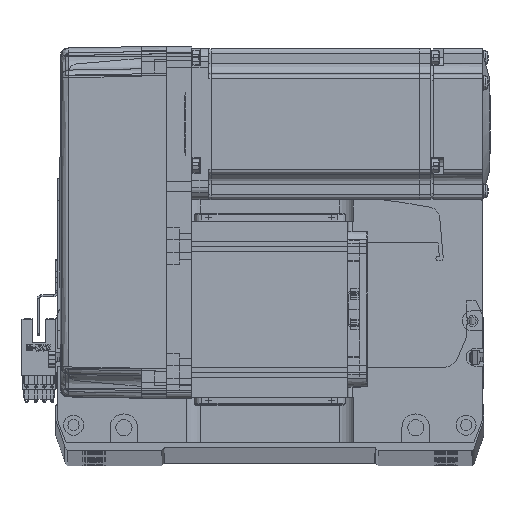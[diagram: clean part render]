
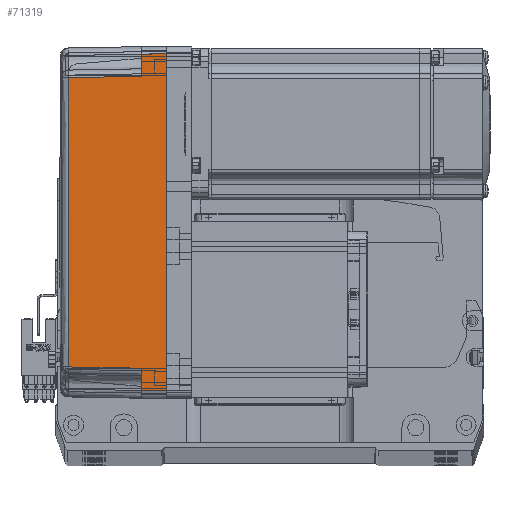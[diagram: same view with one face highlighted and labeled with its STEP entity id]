
A CAD part, top view. The second image highlights one B-rep face of the part: STEP entity #71319.
In plain terms, the highlighted planar face has unit normal (-0.018, 0, 1) as drawn and (0, 1, 0.017) by its records, which use the part's own axes.
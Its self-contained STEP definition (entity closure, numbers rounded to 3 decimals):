
#559 = CARTESIAN_POINT ( 'NONE',  ( 70., 35.825, 10. ) ) ;
#2320 = VERTEX_POINT ( 'NONE', #36102 ) ;
#3219 = CARTESIAN_POINT ( 'NONE',  ( -66.826, 35.825, 10. ) ) ;
#5297 = CARTESIAN_POINT ( 'NONE',  ( -67., 36., 0. ) ) ;
#5509 = DIRECTION ( 'NONE',  ( -0.017, -0.017, 1. ) ) ;
#7162 = CARTESIAN_POINT ( 'NONE',  ( 57.495, 35.32, 38.985 ) ) ;
#7268 = VECTOR ( 'NONE', #34863, 1000. ) ;
#8394 = DIRECTION ( 'NONE',  ( 1., 0., 0. ) ) ;
#9385 = CARTESIAN_POINT ( 'NONE',  ( 67., 36., 0. ) ) ;
#9484 = LINE ( 'NONE', #22014, #61740 ) ;
#11515 = EDGE_CURVE ( 'NONE', #2320, #17681, #45576, .T. ) ;
#12842 = FACE_OUTER_BOUND ( 'NONE', #32703, .T. ) ;
#14404 = CARTESIAN_POINT ( 'NONE',  ( 57.495, 35.32, 38.985 ) ) ;
#14423 = ORIENTED_EDGE ( 'NONE', *, *, #64313, .T. ) ;
#14895 = CARTESIAN_POINT ( 'NONE',  ( 19.165, 35.316, 39.181 ) ) ;
#15137 = VECTOR ( 'NONE', #60632, 1000. ) ;
#17681 = VERTEX_POINT ( 'NONE', #70822 ) ;
#19824 = AXIS2_PLACEMENT_3D ( 'NONE', #30232, #64140, #48783 ) ;
#19949 = CARTESIAN_POINT ( 'NONE',  ( 66.826, 35.825, 10. ) ) ;
#22014 = CARTESIAN_POINT ( 'NONE',  ( 0., 36., 0. ) ) ;
#22133 = DIRECTION ( 'NONE',  ( 0.017, -0.017, 1. ) ) ;
#23734 = EDGE_CURVE ( 'NONE', #40933, #29986, #58445, .T. ) ;
#24136 = LINE ( 'NONE', #559, #7268 ) ;
#25846 = ORIENTED_EDGE ( 'NONE', *, *, #55801, .T. ) ;
#26626 = VECTOR ( 'NONE', #5509, 1000. ) ;
#27271 = CARTESIAN_POINT ( 'NONE',  ( -58., 35.825, 10. ) ) ;
#27320 = LINE ( 'NONE', #5297, #61862 ) ;
#27566 = ORIENTED_EDGE ( 'NONE', *, *, #31715, .T. ) ;
#28053 = EDGE_CURVE ( 'NONE', #34891, #44944, #27320, .T. ) ;
#29986 = VERTEX_POINT ( 'NONE', #19949 ) ;
#30232 = CARTESIAN_POINT ( 'NONE',  ( 70., 36., 0. ) ) ;
#30666 = ORIENTED_EDGE ( 'NONE', *, *, #23734, .F. ) ;
#31715 = EDGE_CURVE ( 'NONE', #17681, #56697, #56033, .T. ) ;
#32703 = EDGE_LOOP ( 'NONE', ( #41438, #60521, #14423, #40806, #27566, #25846, #30666, #44232 ) ) ;
#34863 = DIRECTION ( 'NONE',  ( 1., 0., 0. ) ) ;
#34891 = VERTEX_POINT ( 'NONE', #69244 ) ;
#36102 = CARTESIAN_POINT ( 'NONE',  ( -57.495, 35.32, 38.985 ) ) ;
#38646 = EDGE_CURVE ( 'NONE', #34891, #40933, #9484, .T. ) ;
#40703 = EDGE_CURVE ( 'NONE', #44944, #53593, #24136, .T. ) ;
#40806 = ORIENTED_EDGE ( 'NONE', *, *, #11515, .T. ) ;
#40933 = VERTEX_POINT ( 'NONE', #9385 ) ;
#40991 = VECTOR ( 'NONE', #46738, 1000. ) ;
#41438 = ORIENTED_EDGE ( 'NONE', *, *, #28053, .T. ) ;
#42277 = CARTESIAN_POINT ( 'NONE',  ( 70., 35.825, 10. ) ) ;
#43306 = CARTESIAN_POINT ( 'NONE',  ( -19.165, 35.316, 39.181 ) ) ;
#43433 = LINE ( 'NONE', #27271, #15137 ) ;
#44232 = ORIENTED_EDGE ( 'NONE', *, *, #38646, .F. ) ;
#44944 = VERTEX_POINT ( 'NONE', #3219 ) ;
#45576 = B_SPLINE_CURVE_WITH_KNOTS ( 'NONE', 3,
 ( #59162, #43306, #14895, #14404 ),
 .UNSPECIFIED., .F., .F.,
 ( 4, 4 ),
 ( 0., 1. ),
 .UNSPECIFIED. ) ;
#46738 = DIRECTION ( 'NONE',  ( 0.017, 0.017, -1. ) ) ;
#48783 = DIRECTION ( 'NONE',  ( 0., -0.017, 1. ) ) ;
#50551 = LINE ( 'NONE', #42277, #70896 ) ;
#53593 = VERTEX_POINT ( 'NONE', #68651 ) ;
#55801 = EDGE_CURVE ( 'NONE', #56697, #29986, #50551, .T. ) ;
#56033 = LINE ( 'NONE', #7162, #40991 ) ;
#56697 = VERTEX_POINT ( 'NONE', #64385 ) ;
#58445 = LINE ( 'NONE', #73238, #26626 ) ;
#59162 = CARTESIAN_POINT ( 'NONE',  ( -57.495, 35.32, 38.985 ) ) ;
#60521 = ORIENTED_EDGE ( 'NONE', *, *, #40703, .T. ) ;
#60632 = DIRECTION ( 'NONE',  ( 0.017, -0.017, 1. ) ) ;
#61740 = VECTOR ( 'NONE', #67958, 1000. ) ;
#61862 = VECTOR ( 'NONE', #22133, 1000. ) ;
#63897 = PLANE ( 'NONE',  #19824 ) ;
#64140 = DIRECTION ( 'NONE',  ( 0., 1., 0.017 ) ) ;
#64313 = EDGE_CURVE ( 'NONE', #53593, #2320, #43433, .T. ) ;
#64385 = CARTESIAN_POINT ( 'NONE',  ( 58., 35.825, 10. ) ) ;
#67958 = DIRECTION ( 'NONE',  ( 1., 0., 0. ) ) ;
#68651 = CARTESIAN_POINT ( 'NONE',  ( -58., 35.825, 10. ) ) ;
#69244 = CARTESIAN_POINT ( 'NONE',  ( -67., 36., 0. ) ) ;
#70822 = CARTESIAN_POINT ( 'NONE',  ( 57.495, 35.32, 38.985 ) ) ;
#70896 = VECTOR ( 'NONE', #8394, 1000. ) ;
#71319 = ADVANCED_FACE ( 'NONE', ( #12842 ), #63897, .T. ) ;
#73238 = CARTESIAN_POINT ( 'NONE',  ( 67.001, 36.001, -0.052 ) ) ;
